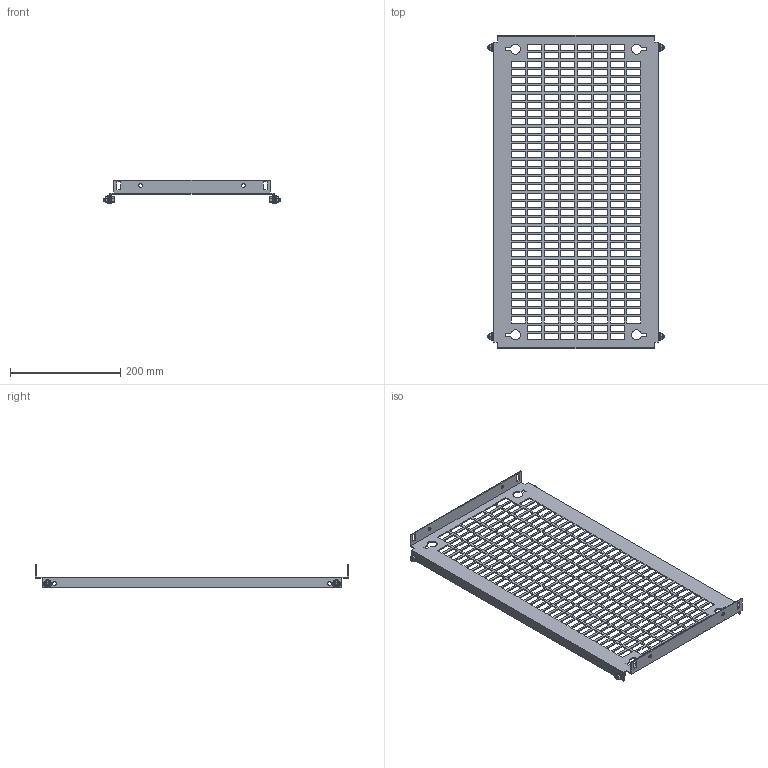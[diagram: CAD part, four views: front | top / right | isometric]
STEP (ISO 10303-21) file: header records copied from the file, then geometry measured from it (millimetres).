
FILE_DESCRIPTION(('Open CASCADE Model'),'2;1');
FILE_NAME('Open CASCADE Shape Model','2025-02-19T16:48:39',('Author'),( 'Open CASCADE'),'Open CASCADE STEP processor 7.8','Open CASCADE 7.8' ,'Unknown');
FILE_SCHEMA(('AUTOMOTIVE_DESIGN { 1 0 10303 214 1 1 1 1 }'));
Length unit declared in the file: millimetre
Products named in the file (4): Compound1; Solid1; Solid2; Solid3
Assembly tree (9 placements, depth 2):
  Compound1
    Solid1
    Solid2  x4
    Solid3  x4
Bounding box: 320 x 569 x 43 mm (x, y, z)
Volume: 246494.2 mm3; surface area: 292377.8 mm2
Topology: 9 solids, 9 shells, 1410 faces, 4058 edges, 2670 vertices
Faces by surface type: plane 1254, cone 68, bspline 48, cylinder 28, torus 12
Full cylindrical faces by diameter (mm): 5 x4, 6 x8, 7 x12
Entity records: 42784 total; most frequent: CARTESIAN_POINT 8047, ORIENTED_EDGE 7438, DIRECTION 6208, EDGE_CURVE 3719, LINE 3568, VECTOR 3568, VERTEX_POINT 2472, FACE_BOUND 1857
